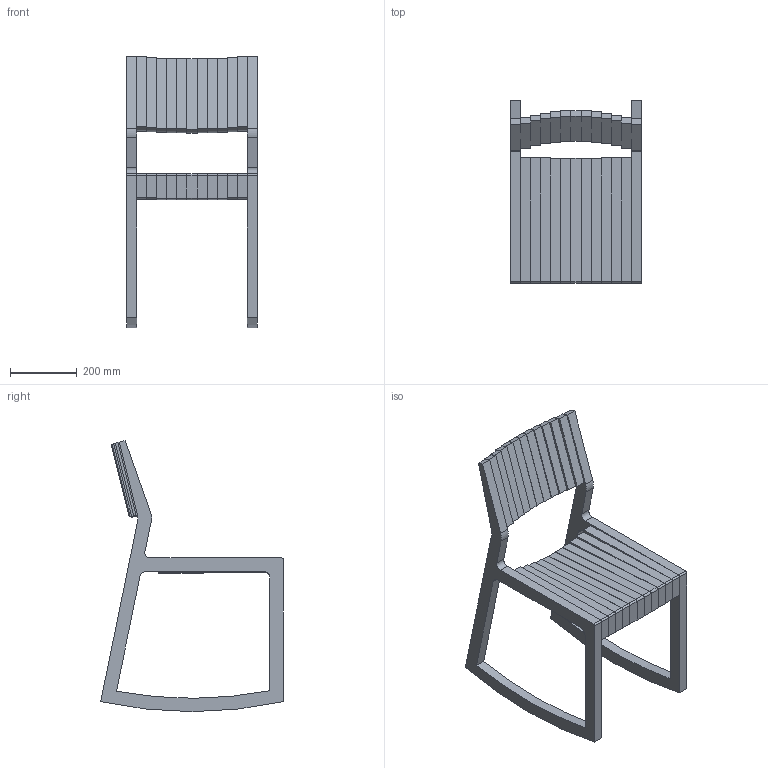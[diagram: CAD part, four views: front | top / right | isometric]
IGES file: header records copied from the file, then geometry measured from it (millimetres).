
Start section: Data from Parasolid IGES Translator 17.0.49, Copyright(c) 2006 Siemens P LM Software. All Rights Reserved.
Global section: file name: BET.igs; native system: By Siemens PLM Incorporated; preprocessor: XPlus GENERIC/IGES 17.0.49; author: Noname; organization: Noname; date: 20170605.165822; units: metre
Bounding box: 390 x 546.69 x 812.07 mm (x, y, z)
Volume: 11356316.7 mm3; surface area: 1454943.7 mm2
Topology: 24 solids, 24 shells, 216 faces, 504 edges, 336 vertices
Faces by surface type: plane 156, cylinder 60
